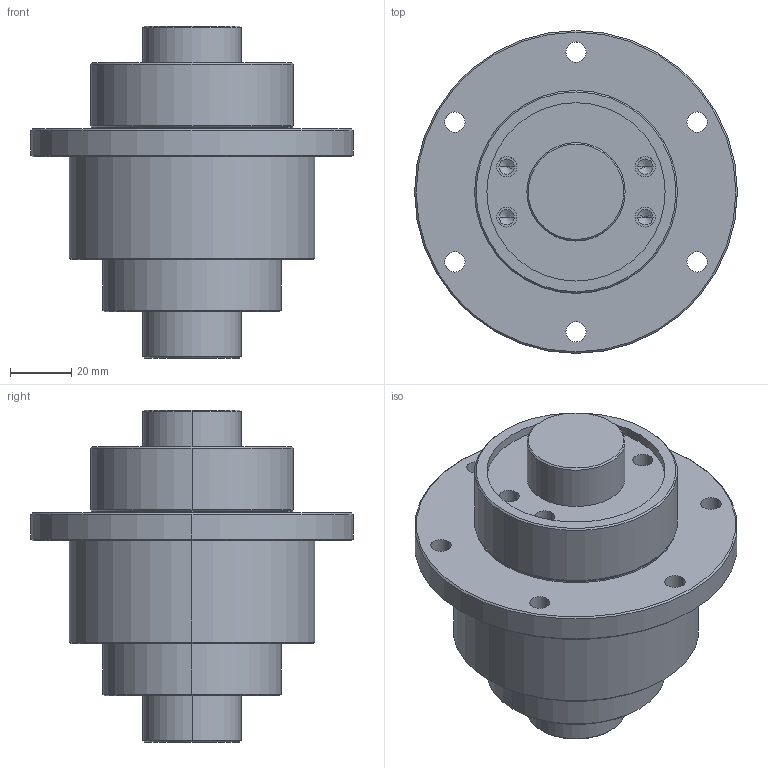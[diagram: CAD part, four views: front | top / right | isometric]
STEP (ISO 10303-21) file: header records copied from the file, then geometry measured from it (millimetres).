
FILE_DESCRIPTION (( 'STEP AP203' ), '1' );
FILE_NAME ('RFBY3232.STEP', '2014-11-13T09:02:30', ( '' ), ( '' ), 'SwSTEP 2.0', 'SolidWorks 2014', '' );
FILE_SCHEMA (( 'CONFIG_CONTROL_DESIGN' ));
Length unit declared in the file: millimetre
Products named in the file (1): RFBY3232
Bounding box: 105 x 105 x 108 mm (x, y, z)
Volume: 377310.1 mm3; surface area: 64917.8 mm2
Topology: 3 solids, 3 shells, 84 faces, 186 edges, 112 vertices
Faces by surface type: cylinder 46, cone 24, plane 14
Entity records: 2395 total; most frequent: DIRECTION 456, CARTESIAN_POINT 375, ORIENTED_EDGE 356, AXIS2_PLACEMENT_3D 193, EDGE_CURVE 178, EDGE_LOOP 112, VERTEX_POINT 112, CIRCLE 108
